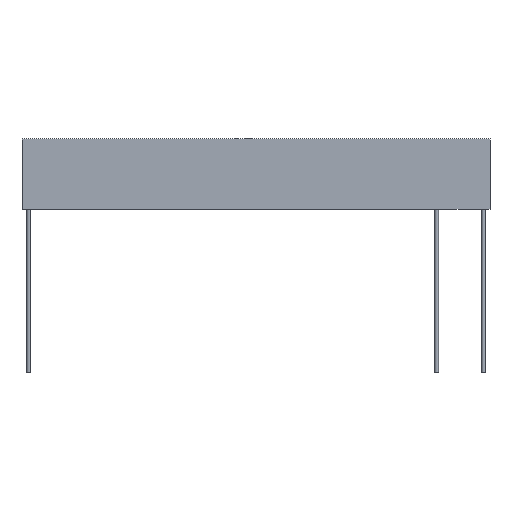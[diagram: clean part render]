
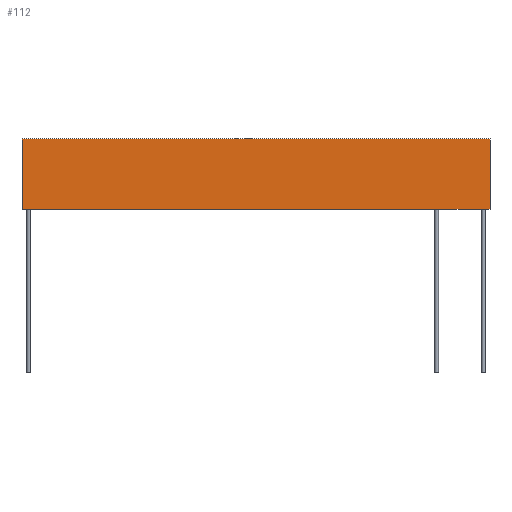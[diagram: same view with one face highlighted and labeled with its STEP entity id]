
A CAD part, front view. The second image highlights one B-rep face of the part: STEP entity #112.
In plain terms, the highlighted planar face has unit normal (0, -1, 0).
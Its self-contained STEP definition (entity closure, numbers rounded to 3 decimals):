
#112=ADVANCED_FACE('',(#214),#216,.T.);
#214=FACE_BOUND('',#215,.T.);
#215=EDGE_LOOP('',(#289,#290,#291,#292));
#216=PLANE('',#217);
#217=AXIS2_PLACEMENT_3D('',#218,#219,#220);
#218=CARTESIAN_POINT('',(-50.,-1.25,0.));
#219=DIRECTION('',(0.,-1.,0.));
#220=DIRECTION('',(1.,0.,0.));
#289=ORIENTED_EDGE('',*,*,#308,.T.);
#290=ORIENTED_EDGE('',*,*,#324,.T.);
#291=ORIENTED_EDGE('',*,*,#325,.F.);
#292=ORIENTED_EDGE('',*,*,#326,.F.);
#308=EDGE_CURVE('',#336,#334,#337,.T.);
#324=EDGE_CURVE('',#334,#362,#364,.T.);
#325=EDGE_CURVE('',#365,#362,#366,.T.);
#326=EDGE_CURVE('',#336,#365,#367,.T.);
#334=VERTEX_POINT('',#383);
#336=VERTEX_POINT('',#387);
#337=LINE('',#388,#389);
#362=VERTEX_POINT('',#450);
#364=LINE('',#454,#455);
#365=VERTEX_POINT('',#457);
#366=LINE('',#458,#459);
#367=LINE('',#461,#462);
#383=CARTESIAN_POINT('',(50.,-1.25,0.));
#387=CARTESIAN_POINT('',(-50.,-1.25,0.));
#388=CARTESIAN_POINT('',(-50.,-1.25,0.));
#389=VECTOR('',#390,1.);
#390=DIRECTION('',(1.,0.,0.));
#450=CARTESIAN_POINT('',(50.,-1.25,15.));
#454=CARTESIAN_POINT('',(50.,-1.25,0.));
#455=VECTOR('',#456,1.);
#456=DIRECTION('',(0.,0.,1.));
#457=CARTESIAN_POINT('',(-50.,-1.25,15.));
#458=CARTESIAN_POINT('',(-50.,-1.25,15.));
#459=VECTOR('',#460,1.);
#460=DIRECTION('',(1.,0.,0.));
#461=CARTESIAN_POINT('',(-50.,-1.25,0.));
#462=VECTOR('',#463,1.);
#463=DIRECTION('',(0.,0.,1.));
